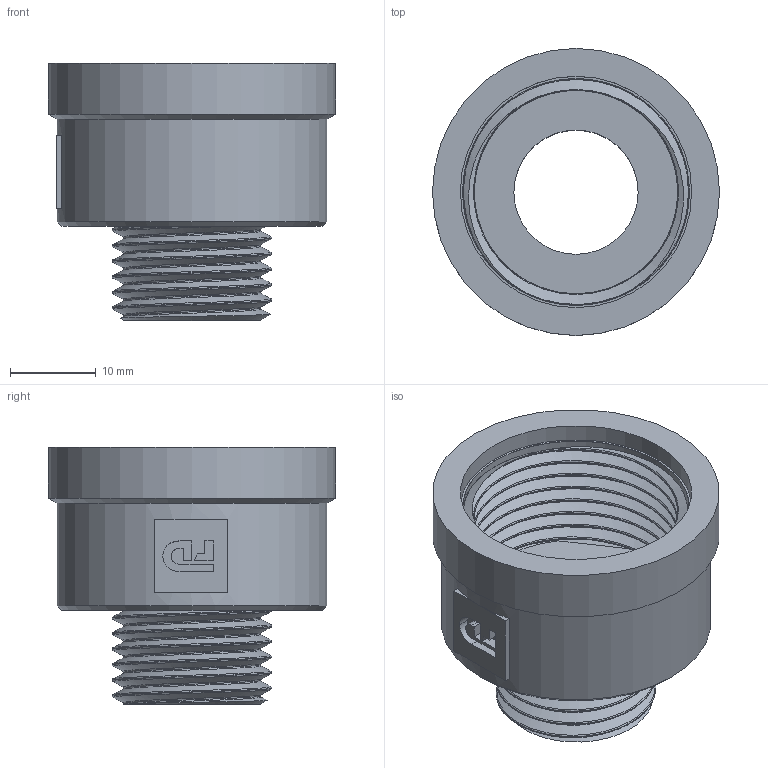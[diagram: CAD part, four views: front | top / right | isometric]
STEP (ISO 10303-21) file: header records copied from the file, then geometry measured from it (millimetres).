
FILE_DESCRIPTION(/* description */ (''),/* implementation_level */ '2;1');
FILE_NAME(/* name */ 'C:\Users\Doom\Desktop\Фадотех\Резьба\P04C 18.03.2020\P04C 18.03.2020.stp',/* time_stamp */ '2022-01-12T00:42:20+02:00',/* author */ ('Doom'),/* organization */ (''),/* preprocessor_version */ 'ST-DEVELOPER v18',/* originating_system */ 'Autodesk Inventor 2020',/* authorisation */ '');
FILE_SCHEMA (('AUTOMOTIVE_DESIGN { 1 0 10303 214 3 1 1 }'));
Length unit declared in the file: millimetre
Products named in the file (1): P04C 18.03.2020
Bounding box: 33.5 x 33.5 x 30 mm (x, y, z)
Volume: 8148 mm3; surface area: 10992.1 mm2
Topology: 3 solids, 3 shells, 74 faces, 201 edges, 136 vertices
Faces by surface type: plane 29, cylinder 25, bspline 16, cone 4
Full cylindrical faces by diameter (mm): 14.5 x1, 15.94 x2, 18.63 x5, 23.75 x8, 26.44 x2, 27 x1, 31.5 x1, 33.5 x1
Entity records: 10117 total; most frequent: CARTESIAN_POINT 8362, ORIENTED_EDGE 394, DIRECTION 281, EDGE_CURVE 197, VERTEX_POINT 134, AXIS2_PLACEMENT_3D 99, EDGE_LOOP 85, LINE 83
